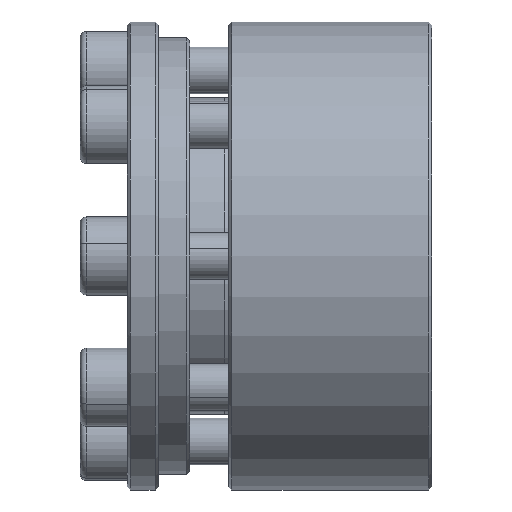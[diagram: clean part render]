
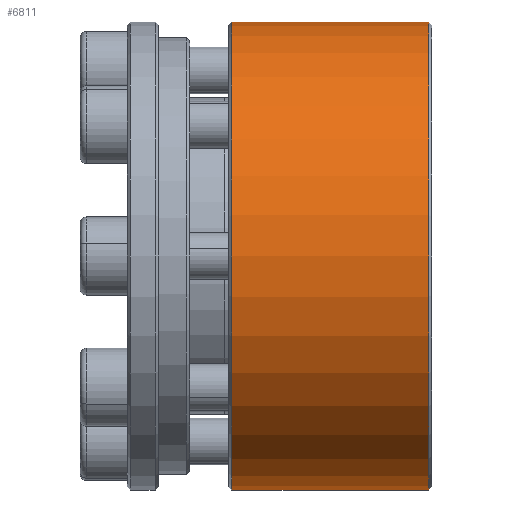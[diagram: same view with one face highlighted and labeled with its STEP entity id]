
A CAD part, front view. The second image highlights one B-rep face of the part: STEP entity #6811.
In plain terms, the highlighted cylindrical face has radius 29.96 mm (diameter 59.92 mm), a partial arc.
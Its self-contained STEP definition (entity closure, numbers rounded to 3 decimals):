
#236 = VECTOR ( 'NONE', #3449, 1000. ) ;
#262 = VERTEX_POINT ( 'NONE', #4784 ) ;
#779 = CARTESIAN_POINT ( 'NONE',  ( -92.766, 26.04, 29.96 ) ) ;
#1179 = ORIENTED_EDGE ( 'NONE', *, *, #5079, .T. ) ;
#1447 = DIRECTION ( 'NONE',  ( 0., 0., -1. ) ) ;
#1478 = VERTEX_POINT ( 'NONE', #1796 ) ;
#1796 = CARTESIAN_POINT ( 'NONE',  ( -92.366, 26.04, 29.96 ) ) ;
#1910 = AXIS2_PLACEMENT_3D ( 'NONE', #5164, #8585, #2964 ) ;
#1995 = CARTESIAN_POINT ( 'NONE',  ( -92.366, 26.04, -29.96 ) ) ;
#2124 = VERTEX_POINT ( 'NONE', #7304 ) ;
#2441 = ORIENTED_EDGE ( 'NONE', *, *, #5368, .F. ) ;
#2451 = CYLINDRICAL_SURFACE ( 'NONE', #1910, 29.96 ) ;
#2463 = ORIENTED_EDGE ( 'NONE', *, *, #6901, .T. ) ;
#2534 = VECTOR ( 'NONE', #6612, 1000. ) ;
#2737 = VERTEX_POINT ( 'NONE', #1995 ) ;
#2964 = DIRECTION ( 'NONE',  ( 0., 0., 1. ) ) ;
#2988 = FACE_OUTER_BOUND ( 'NONE', #6539, .T. ) ;
#3270 = CARTESIAN_POINT ( 'NONE',  ( -92.766, 26.04, -29.96 ) ) ;
#3449 = DIRECTION ( 'NONE',  ( -1., 0., 0. ) ) ;
#4188 = AXIS2_PLACEMENT_3D ( 'NONE', #7201, #8403, #6401 ) ;
#4687 = LINE ( 'NONE', #3270, #2534 ) ;
#4784 = CARTESIAN_POINT ( 'NONE',  ( -67.166, 26.04, -29.96 ) ) ;
#5079 = EDGE_CURVE ( 'NONE', #2124, #1478, #6941, .T. ) ;
#5134 = EDGE_CURVE ( 'NONE', #1478, #2737, #5521, .T. ) ;
#5164 = CARTESIAN_POINT ( 'NONE',  ( -92.766, 26.04, 0. ) ) ;
#5368 = EDGE_CURVE ( 'NONE', #262, #2737, #4687, .T. ) ;
#5521 = CIRCLE ( 'NONE', #6522, 29.96 ) ;
#6322 = CIRCLE ( 'NONE', #4188, 29.96 ) ;
#6395 = ORIENTED_EDGE ( 'NONE', *, *, #5134, .T. ) ;
#6401 = DIRECTION ( 'NONE',  ( 0., 0., 1. ) ) ;
#6522 = AXIS2_PLACEMENT_3D ( 'NONE', #7552, #7469, #1447 ) ;
#6539 = EDGE_LOOP ( 'NONE', ( #2441, #2463, #1179, #6395 ) ) ;
#6612 = DIRECTION ( 'NONE',  ( -1., 0., 0. ) ) ;
#6811 = ADVANCED_FACE ( 'NONE', ( #2988 ), #2451, .T. ) ;
#6901 = EDGE_CURVE ( 'NONE', #262, #2124, #6322, .T. ) ;
#6941 = LINE ( 'NONE', #779, #236 ) ;
#7201 = CARTESIAN_POINT ( 'NONE',  ( -67.166, 26.04, 0. ) ) ;
#7304 = CARTESIAN_POINT ( 'NONE',  ( -67.166, 26.04, 29.96 ) ) ;
#7469 = DIRECTION ( 'NONE',  ( 1., 0., 0. ) ) ;
#7552 = CARTESIAN_POINT ( 'NONE',  ( -92.366, 26.04, 0. ) ) ;
#8403 = DIRECTION ( 'NONE',  ( -1., 0., 0. ) ) ;
#8585 = DIRECTION ( 'NONE',  ( -1., 0., 0. ) ) ;
